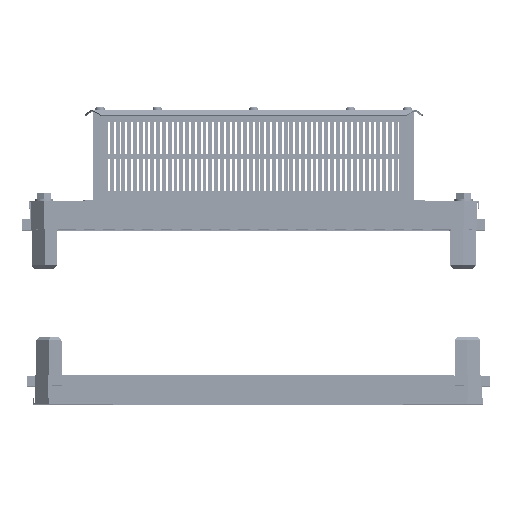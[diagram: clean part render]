
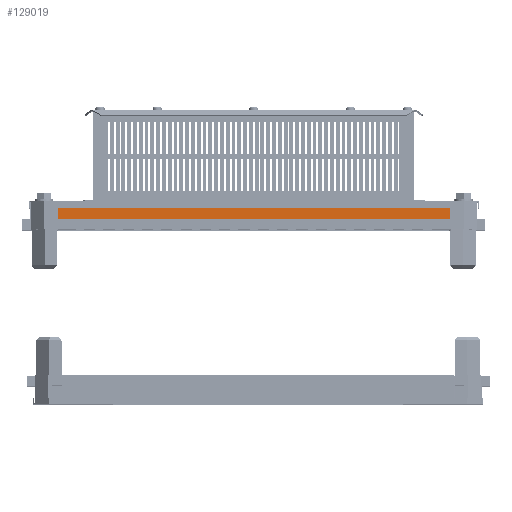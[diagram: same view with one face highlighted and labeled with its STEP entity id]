
A CAD part, top view. The second image highlights one B-rep face of the part: STEP entity #129019.
In plain terms, the highlighted planar face has unit normal (0, 0, 1).
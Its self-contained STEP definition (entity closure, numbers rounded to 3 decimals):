
#4591 = ORIENTED_EDGE ( 'NONE', *, *, #13223, .F. ) ;
#4921 = VECTOR ( 'NONE', #254650, 1000. ) ;
#11054 = PLANE ( 'NONE',  #80357 ) ;
#13223 = EDGE_CURVE ( 'NONE', #49560, #203036, #155137, .T. ) ;
#24641 = DIRECTION ( 'NONE',  ( 1., 0., 0. ) ) ;
#28778 = VERTEX_POINT ( 'NONE', #112175 ) ;
#49560 = VERTEX_POINT ( 'NONE', #77438 ) ;
#53252 = VECTOR ( 'NONE', #284030, 1000. ) ;
#57745 = CARTESIAN_POINT ( 'NONE',  ( -46., -119.3, -10.5 ) ) ;
#61340 = LINE ( 'NONE', #131608, #53252 ) ;
#72501 = EDGE_LOOP ( 'NONE', ( #232092, #4591, #259124, #181228 ) ) ;
#75891 = LINE ( 'NONE', #165241, #4921 ) ;
#77438 = CARTESIAN_POINT ( 'NONE',  ( -554., -119.3, -10.5 ) ) ;
#80357 = AXIS2_PLACEMENT_3D ( 'NONE', #189809, #280646, #279188 ) ;
#90429 = EDGE_CURVE ( 'NONE', #205134, #28778, #243576, .T. ) ;
#112175 = CARTESIAN_POINT ( 'NONE',  ( -554., -141.8, -10.5 ) ) ;
#129019 = ADVANCED_FACE ( 'NONE', ( #191254 ), #11054, .F. ) ;
#131608 = CARTESIAN_POINT ( 'NONE',  ( -554., -140.5, -10.5 ) ) ;
#132202 = CARTESIAN_POINT ( 'NONE',  ( -554., -141.8, -10.5 ) ) ;
#155137 = LINE ( 'NONE', #269362, #214674 ) ;
#157261 = VECTOR ( 'NONE', #195261, 1000. ) ;
#160658 = EDGE_CURVE ( 'NONE', #205134, #203036, #75891, .T. ) ;
#165241 = CARTESIAN_POINT ( 'NONE',  ( -46., -140.5, -10.5 ) ) ;
#181228 = ORIENTED_EDGE ( 'NONE', *, *, #90429, .F. ) ;
#189809 = CARTESIAN_POINT ( 'NONE',  ( -554., -140.5, -10.5 ) ) ;
#191254 = FACE_OUTER_BOUND ( 'NONE', #72501, .T. ) ;
#195261 = DIRECTION ( 'NONE',  ( -1., 0., 0. ) ) ;
#203036 = VERTEX_POINT ( 'NONE', #57745 ) ;
#205134 = VERTEX_POINT ( 'NONE', #218207 ) ;
#214674 = VECTOR ( 'NONE', #24641, 1000. ) ;
#218207 = CARTESIAN_POINT ( 'NONE',  ( -46., -141.8, -10.5 ) ) ;
#232092 = ORIENTED_EDGE ( 'NONE', *, *, #160658, .T. ) ;
#243576 = LINE ( 'NONE', #132202, #157261 ) ;
#254650 = DIRECTION ( 'NONE',  ( 0., 1., 0. ) ) ;
#259124 = ORIENTED_EDGE ( 'NONE', *, *, #268268, .F. ) ;
#268268 = EDGE_CURVE ( 'NONE', #28778, #49560, #61340, .T. ) ;
#269362 = CARTESIAN_POINT ( 'NONE',  ( -554., -119.3, -10.5 ) ) ;
#279188 = DIRECTION ( 'NONE',  ( 0., -1., 0. ) ) ;
#280646 = DIRECTION ( 'NONE',  ( 0., 0., -1. ) ) ;
#284030 = DIRECTION ( 'NONE',  ( 0., 1., 0. ) ) ;
